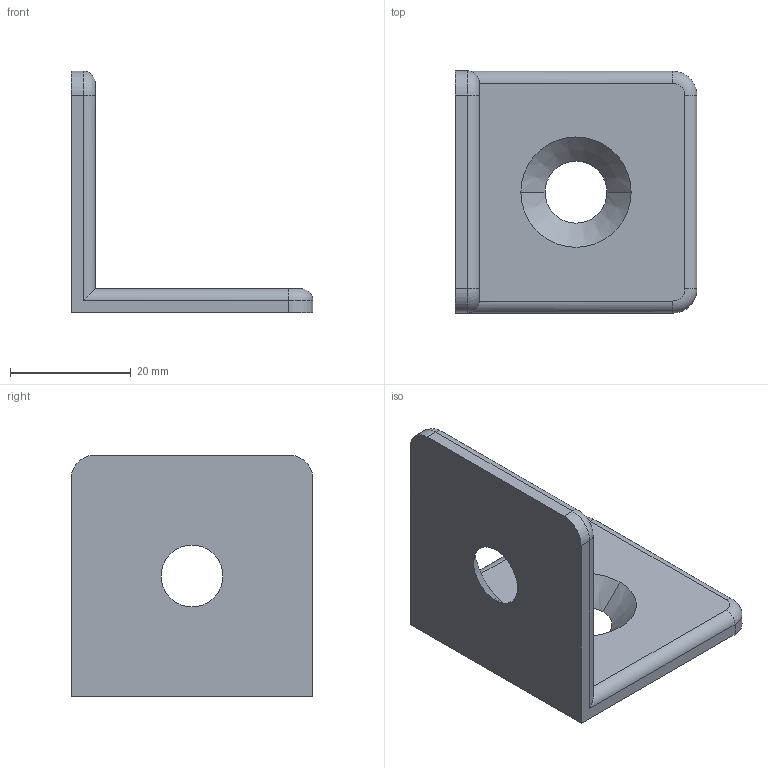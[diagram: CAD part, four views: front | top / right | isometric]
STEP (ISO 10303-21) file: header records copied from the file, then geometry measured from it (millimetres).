
FILE_DESCRIPTION (( 'STEP AP203' ), '1' );
FILE_NAME ('0108W40SCH.STEP', '2024-09-05T12:19:49', ( 'Windows-Benutzer' ), ( '' ), 'SwSTEP 2.0', 'SolidWorks 2024', '' );
FILE_SCHEMA (( 'CONFIG_CONTROL_DESIGN' ));
Length unit declared in the file: millimetre
Products named in the file (1): 0108W40SCH
Bounding box: 40 x 40 x 40 mm (x, y, z)
Volume: 10610.2 mm3; surface area: 6584.3 mm2
Topology: 1 solids, 1 shells, 26 faces, 62 edges, 38 vertices
Faces by surface type: cylinder 10, plane 8, cone 4, torus 4
Entity records: 839 total; most frequent: DIRECTION 142, CARTESIAN_POINT 133, ORIENTED_EDGE 124, EDGE_CURVE 62, AXIS2_PLACEMENT_3D 55, VERTEX_POINT 38, VECTOR 32, LINE 32
